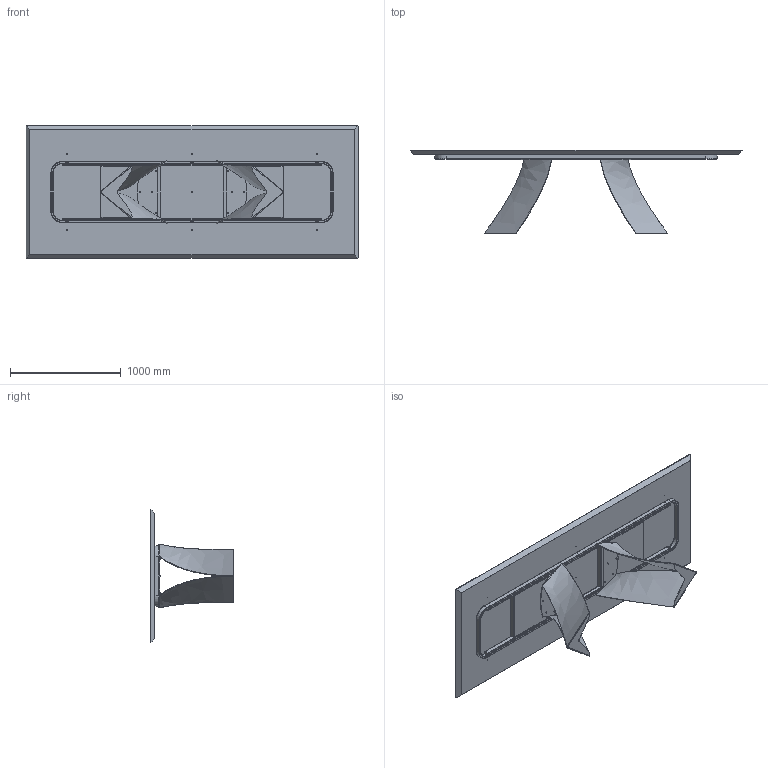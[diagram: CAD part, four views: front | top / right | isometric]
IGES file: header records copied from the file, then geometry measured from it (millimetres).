
Start section: SolidWorks IGES file using analytic representation for surfaces
Global section: file name: Y:\eforma\TECNICO\SOLIDWORKS\E-FORMA\1-TAVOLI\TWIST\02 parts\TW24W.IGS; native system: SolidWorks 2022; preprocessor: SolidWorks 2022; author: eforma.tech; date: 240807.143351; units: millimetre
Bounding box: 3000 x 753.37 x 1200 mm (x, y, z)
Volume: 145235473.4 mm3; surface area: 13421080.3 mm2
Topology: 63 solids, 63 shells, 1540 faces, 3600 edges, 2153 vertices
Faces by surface type: revolution 884, plane 590, bspline 66
